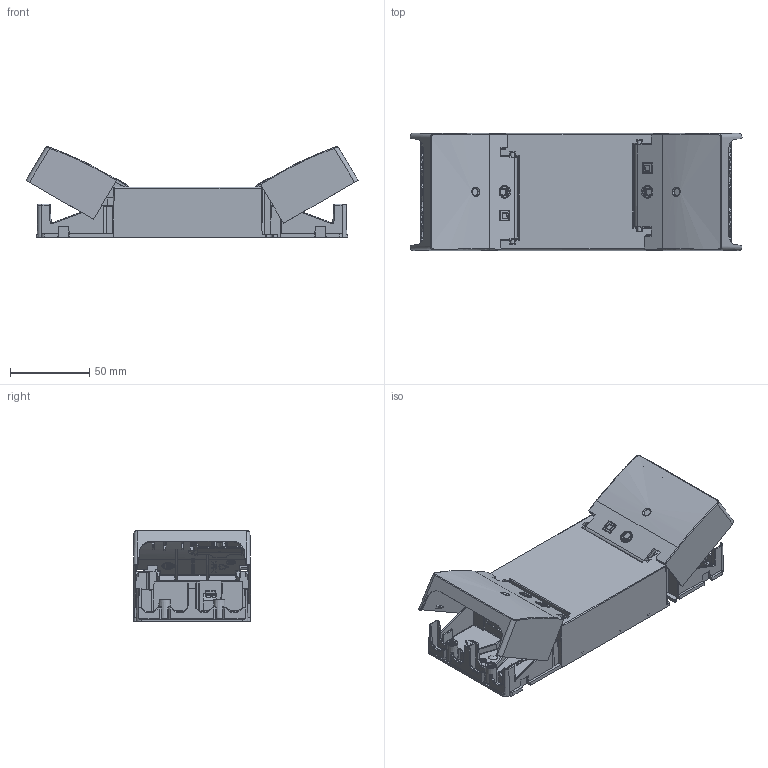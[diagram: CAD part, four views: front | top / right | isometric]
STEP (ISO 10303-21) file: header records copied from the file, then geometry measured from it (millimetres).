
FILE_DESCRIPTION(/* description */ ('','CAx-IF Rec.Pracs.---Representation and Presentation of Product Manufacturing Information (PMI)---3.8---2014-02-18'),/* implementation_level */ '2;1');
FILE_NAME(/* name */ 'C:\Data\Vault\LE-TPD\9290 028 61100_Xitanium 20W WH 0.15-0.5A 54V SR Is 230V\Xitanium WH SR independent sh-010 2021-06-03.stp',/* time_stamp */ '2021-06-03T16:06:05+02:00',/* author */ ('nly19266'),/* organization */ (''),/* preprocessor_version */ 'ST-DEVELOPER v16.5',/* originating_system */ 'Autodesk Inventor 2017',/* authorisation */ '');
FILE_SCHEMA (('AP242_MANAGED_MODEL_BASED_3D_ENGINEERING_MIM_LF { 1 0 10303 442 1 1 4 }'));
Products named in the file (1): Xitanium WH SR independent sh-010
Bounding box: 209.97 x 74.23 x 57.58 mm (x, y, z)
Volume: 265699.9 mm3; surface area: 104978.6 mm2
Topology: 3 solids, 16 shells, 6125 faces, 16404 edges, 10455 vertices
Faces by surface type: plane 3401, cylinder 1292, bspline 1068, cone 153, sphere 135, torus 76
Full cylindrical faces by diameter (mm): 1 x4, 1.2 x12, 2.2 x6, 3 x4, 3.5 x3, 4.256 x2, 4.4 x6, 5 x2, 5.117 x2, 5.39 x2, 5.929 x2, 8 x4
Entity records: 206839 total; most frequent: CARTESIAN_POINT 53516, ORIENTED_EDGE 32294, DIRECTION 27794, EDGE_CURVE 16147, LINE 10796, VECTOR 10796, VERTEX_POINT 10409, AXIS2_PLACEMENT_3D 8499
